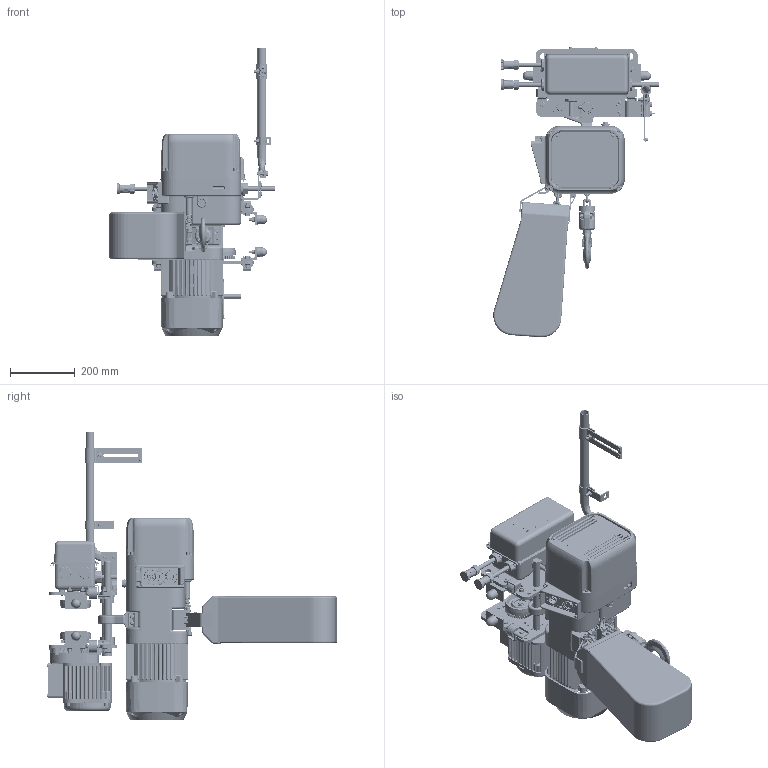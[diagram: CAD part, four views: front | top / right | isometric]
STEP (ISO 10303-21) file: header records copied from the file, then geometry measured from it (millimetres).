
FILE_DESCRIPTION (( 'STEP AP214' ), '1' );
FILE_NAME ('NER2M010SD-SD.STEP', '2026-08-07T12:28:12', ( '' ), ( '' ), 'SwSTEP 2.0', 'SolidWorks 2026', '' );
FILE_SCHEMA (( 'AUTOMOTIVE_DESIGN' ));
Length unit declared in the file: inch
Products named in the file (135): MS104010; Socket Head Cap Screw_AM_B18.3.1M - 6 x 1.0 x 12 Hex SHCS -- 12CHX; MSF115010_MSF115010; MR1DS9501; 14-4 (MR2); Socket Head Cap Screw_AM_B18.3.1M - 10 x 1.5 x 16 Hex SHCS -- 16NHX; T6G156020; MR1DS1481; MS561010; ES558003; hex cap screw_am_9093329; M6F554010; ECP5924AB1; MR1DS9634; 9091294_9091294; MR1DS9411; MS006010; E3S112003; M6FE010S9114; MR1DS9496; MS554010; NER2010SD_FOR MOTORIZED TROLLEY; basic internal retaining ring_am_9047242; J1BG10604024_J1BG10604024; ER2DS9101; KITO-WASHER; 9009446_9009446; 90912134; M6SE010S9101; MR1DS9481; 9012513; ER2DS2015; MR2010SD_Standard Suspension Shaft; 6302Z BEARING; spring lock washer_2_jis_9012712; ER2BHM10I9A5; ER2DS9103; E6F151003; hex nut style 1_am_9093424; ES855003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
Assembly tree (312 placements, depth 6):
  NER2M010SD-SD
    MR2010SD_Standard Suspension Shaft
      MR1DS5201
        MR1DS9201
        MR1DS9203  x2
        M6FE010S9113
      MR1DS5202
        MR1DS9202
        MR1DS9203  x2
        M6FE010S9114
      MSF115010_MSF115010
      MR1DS9634  x4
      hex cap screw_am_9093330  x8
      single coil rectangular section spring washer_bsi_9012711  x20
      hex nut style 1_am_9093424  x16
      MR1DS9631  x4
      MS006010  x4
      MR1DS1211_Reversed  x2
        MR1DS1211
        MR1DS9218
      MR1DS1211  x2
        MR1DS1211
        MR1DS9218
      MS1101010  x2
        M6SE010S9101
        6302Z BEARING
        basic internal retaining ring_am_9047242
      hex cap screw_am_9093329  x4
      MS1102010  x2
        M6SE010S9102
        6302Z BEARING
        basic internal retaining ring_am_9047242
      MR1DS9131_MR1DS9131
      9009446_9009446  x2
      MS161010
      T6G156020
      9009432_9009432
      hexagon slotted nut low_1 small_jis_T3P154020
      split pin (metric) as_9009414-5
      9047115_9047115  x4
      MS104010  x4
      6077801
        MR1DS93112
        MR1DS9324
        MR1DS9325
        MR1DS1301
        90912134  x4
        MS554010  x4
      9012513  x4
      hex cap screw_am_9093328  x4
      MR1DS9248
      70131XX_For (N)ER2M (7013102)
        MR1DS9411
        MR1DS9401_1 - 8 TON & 10 L TON
        MR1DS9421
        MS554010  x12
        MR2DI2811
          ECP5924AH
          MS527010
          MR2DI1811
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Bounding box: 511.37 x 898.41 x 890.21 mm (x, y, z)
Volume: 24945627.3 mm3; surface area: 4028571.2 mm2
Topology: 355 solids, 376 shells, 15572 faces, 40858 edges, 26190 vertices
Faces by surface type: plane 6923, cylinder 4934, cone 1268, torus 1119, bspline 1050, sphere 278
Entity records: 359209 total; most frequent: CARTESIAN_POINT 130624, ORIENTED_EDGE 46334, DIRECTION 45099, EDGE_CURVE 23169, AXIS2_PLACEMENT_3D 16874, VERTEX_POINT 15165, LINE 11351, VECTOR 11351
